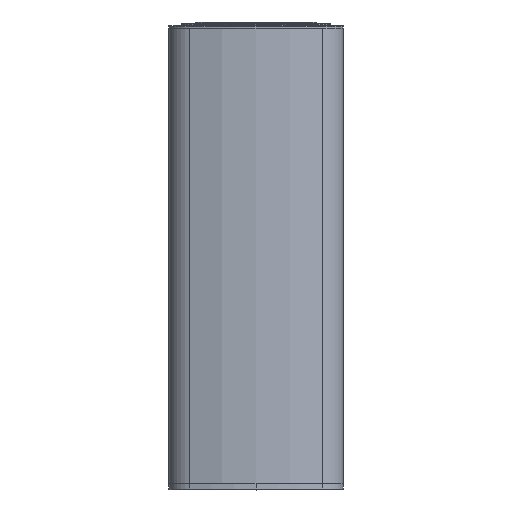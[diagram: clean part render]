
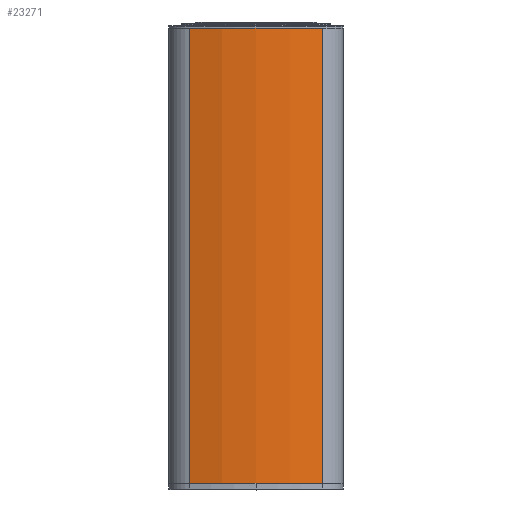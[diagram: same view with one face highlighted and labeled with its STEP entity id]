
A CAD part, top view. The second image highlights one B-rep face of the part: STEP entity #23271.
In plain terms, the highlighted cylindrical face has radius 169.9 mm (diameter 339.8 mm), a partial arc.
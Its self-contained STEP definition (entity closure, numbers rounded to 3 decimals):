
#5278 = CARTESIAN_POINT ( 'NONE',  ( 0., 112.621, -360. ) ) ;
#5323 = DIRECTION ( 'NONE',  ( 0., 0., 1. ) ) ;
#5324 = VECTOR ( 'NONE', #5323, 1000. ) ;
#5325 = CARTESIAN_POINT ( 'NONE',  ( -52.635, -48.92, -360. ) ) ;
#5326 = LINE ( 'NONE', #5325, #5324 ) ;
#5327 = DIRECTION ( 'NONE',  ( 1., 0., 0. ) ) ;
#5328 = DIRECTION ( 'NONE',  ( 0., 0., 1. ) ) ;
#5329 = CARTESIAN_POINT ( 'NONE',  ( 0., 112.621, -360. ) ) ;
#5330 = AXIS2_PLACEMENT_3D ( 'NONE', #5329, #5328, #5327 ) ;
#5331 = CARTESIAN_POINT ( 'NONE',  ( -52.635, -48.92, -360. ) ) ;
#5332 = CYLINDRICAL_SURFACE ( 'NONE', #5330, 169.9 ) ;
#5333 = FACE_OUTER_BOUND ( 'NONE', #23268, .T. ) ;
#5350 = DIRECTION ( 'NONE',  ( 1., 0., 0. ) ) ;
#5351 = DIRECTION ( 'NONE',  ( 0., 0., 1. ) ) ;
#5352 = AXIS2_PLACEMENT_3D ( 'NONE', #5278, #5351, #5350 ) ;
#5353 = CIRCLE ( 'NONE', #5352, 169.9 ) ;
#5418 = CARTESIAN_POINT ( 'NONE',  ( -52.635, -48.92, 0. ) ) ;
#5591 = DIRECTION ( 'NONE',  ( 1., 0., 0. ) ) ;
#5592 = DIRECTION ( 'NONE',  ( 0., 0., 1. ) ) ;
#5593 = CARTESIAN_POINT ( 'NONE',  ( 0., 112.621, 0. ) ) ;
#5594 = AXIS2_PLACEMENT_3D ( 'NONE', #5593, #5592, #5591 ) ;
#5595 = CIRCLE ( 'NONE', #5594, 169.9 ) ;
#6313 = CARTESIAN_POINT ( 'NONE',  ( 52.635, -48.92, -360. ) ) ;
#7205 = DIRECTION ( 'NONE',  ( 0., 0., 1. ) ) ;
#7292 = CARTESIAN_POINT ( 'NONE',  ( 52.635, -48.92, 0. ) ) ;
#7296 = VECTOR ( 'NONE', #7205, 1000. ) ;
#7297 = CARTESIAN_POINT ( 'NONE',  ( 52.635, -48.92, -360. ) ) ;
#7298 = LINE ( 'NONE', #7297, #7296 ) ;
#19154 = VERTEX_POINT ( 'NONE', #7292 ) ;
#19156 = EDGE_CURVE ( 'NONE', #31207, #19154, #7298, .T. ) ;
#23159 = VERTEX_POINT ( 'NONE', #5418 ) ;
#23254 = ORIENTED_EDGE ( 'NONE', *, *, #23256, .T. ) ;
#23256 = EDGE_CURVE ( 'NONE', #23277, #31207, #5353, .T. ) ;
#23257 = ORIENTED_EDGE ( 'NONE', *, *, #19156, .T. ) ;
#23268 = EDGE_LOOP ( 'NONE', ( #23279, #23275, #23254, #23257 ) ) ;
#23271 = ADVANCED_FACE ( 'NONE', ( #5333 ), #5332, .T. ) ;
#23275 = ORIENTED_EDGE ( 'NONE', *, *, #23280, .F. ) ;
#23277 = VERTEX_POINT ( 'NONE', #5331 ) ;
#23279 = ORIENTED_EDGE ( 'NONE', *, *, #23375, .F. ) ;
#23280 = EDGE_CURVE ( 'NONE', #23277, #23159, #5326, .T. ) ;
#23375 = EDGE_CURVE ( 'NONE', #23159, #19154, #5595, .T. ) ;
#31207 = VERTEX_POINT ( 'NONE', #6313 ) ;
